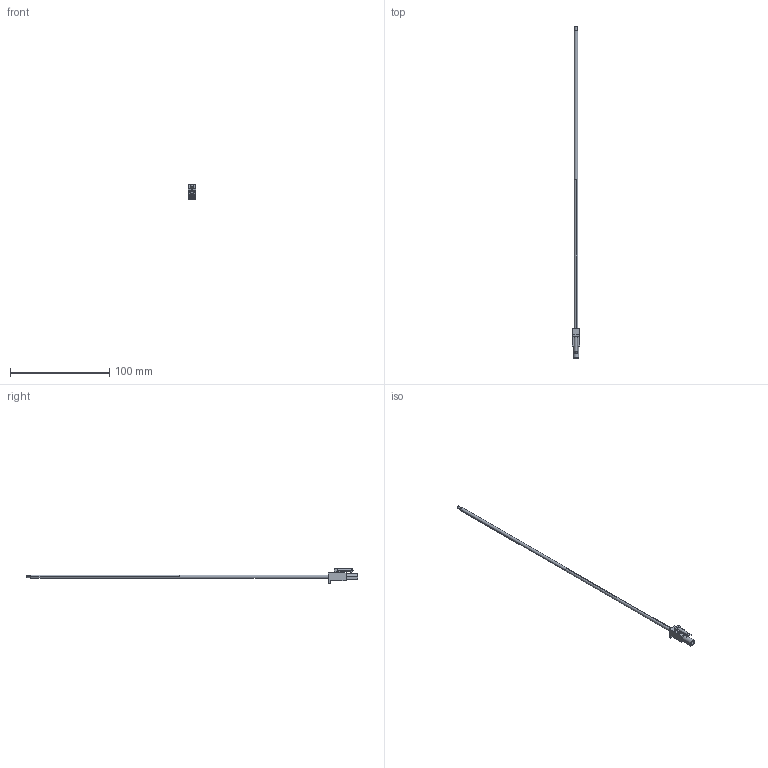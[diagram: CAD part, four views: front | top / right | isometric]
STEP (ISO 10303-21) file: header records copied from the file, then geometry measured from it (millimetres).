
FILE_DESCRIPTION((''),'2;1');
FILE_NAME('2162911012','2021-01-22T',('gga'),(''),'PRO/ENGINEER BY PARAMETRIC TECHNOLOGY CORPORATION, 2016010','PRO/ENGINEER BY PARAMETRIC TECHNOLOGY CORPORATION, 2016010','');
FILE_SCHEMA(('CONFIG_CONTROL_DESIGN'));
Length unit declared in the file: millimetre
Products named in the file (1): 2162911012
Bounding box: 7.62 x 334.9 x 15.11 mm (x, y, z)
Volume: 4303.1 mm3; surface area: 4977.9 mm2
Topology: 2 solids, 2 shells, 76 faces, 200 edges, 135 vertices
Faces by surface type: plane 49, cylinder 24, bspline 2, cone 1
Entity records: 2504 total; most frequent: CARTESIAN_POINT 567, ORIENTED_EDGE 396, DIRECTION 377, EDGE_CURVE 198, VECTOR 143, LINE 143, VERTEX_POINT 131, AXIS2_PLACEMENT_3D 117
